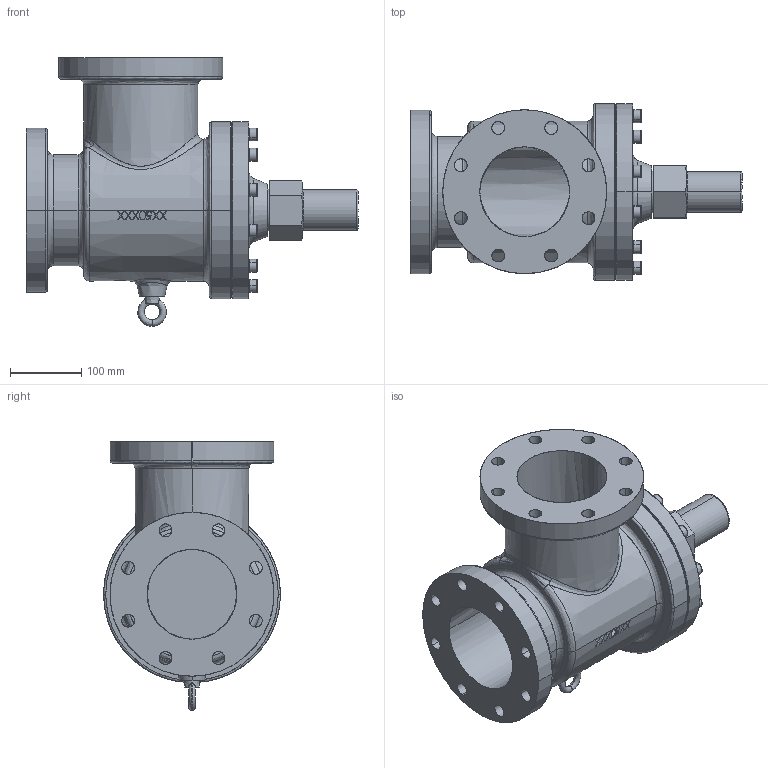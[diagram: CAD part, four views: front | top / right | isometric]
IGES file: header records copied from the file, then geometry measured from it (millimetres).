
Start section: SolidWorks IGES file using analytic representation for surfaces
Bounding box: 466 x 248 x 376.84 mm (x, y, z)
Surface area: 740023.4 mm2 (no closed solid volume)
Topology: 0 solids, 0 shells, 365 faces, 7430 edges, 7420 vertices
Faces by surface type: bspline 267, revolution 98
